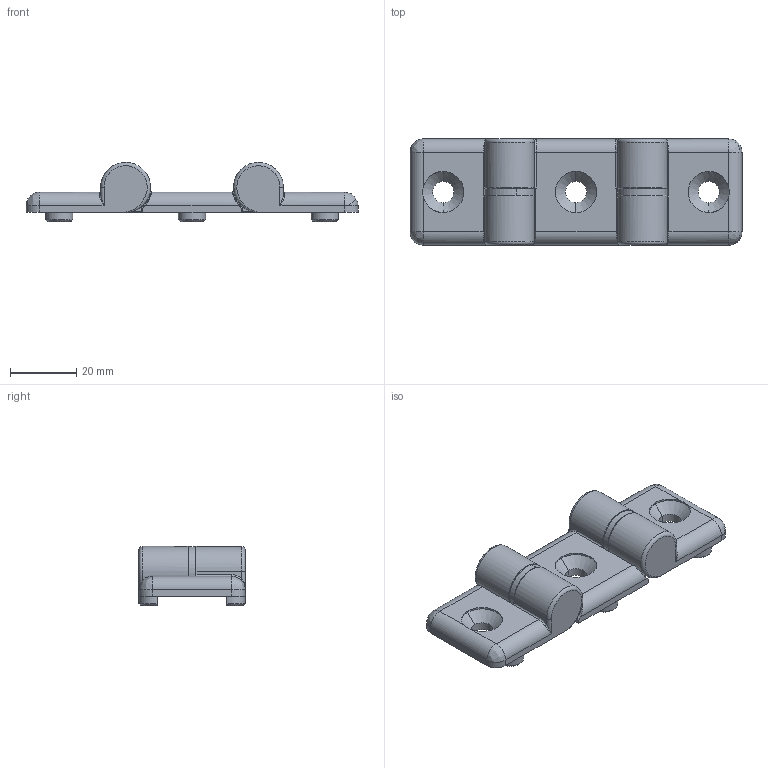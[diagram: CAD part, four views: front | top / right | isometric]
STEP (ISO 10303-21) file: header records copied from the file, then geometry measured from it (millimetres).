
FILE_DESCRIPTION (( 'STEP AP203' ), '1' );
FILE_NAME ('10472_SCHPADOP.STEP', '2018-03-30T07:33:53', ( '' ), ( '' ), 'SwSTEP 2.0', 'SolidWorks 2017', '' );
FILE_SCHEMA (( 'CONFIG_CONTROL_DESIGN' ));
Length unit declared in the file: millimetre
Products named in the file (8): 10472-01-0000-00; 10472-01-0000-06; 10472-01-0000-05; 10472_SCHPADOP; 10472-01-0000-04; 10472-01-0000-02; 10472-01-0000-01; 10472-01-0000-03
Assembly tree (7 placements, depth 2):
  10472_SCHPADOP
    10472-01-0000-00
    10472-01-0000-01
    10472-01-0000-02
    10472-01-0000-04
    10472-01-0000-05
    10472-01-0000-06
    10472-01-0000-03
Bounding box: 100 x 32 x 17.8 mm (x, y, z)
Volume: 23098.9 mm3; surface area: 14037.2 mm2
Topology: 7 solids, 7 shells, 261 faces, 634 edges, 383 vertices
Faces by surface type: cylinder 113, plane 84, bspline 37, cone 27
Entity records: 10197 total; most frequent: CARTESIAN_POINT 3567, ORIENTED_EDGE 1232, DIRECTION 1196, EDGE_CURVE 616, AXIS2_PLACEMENT_3D 483, VERTEX_POINT 379, EDGE_LOOP 281, FACE_OUTER_BOUND 261
